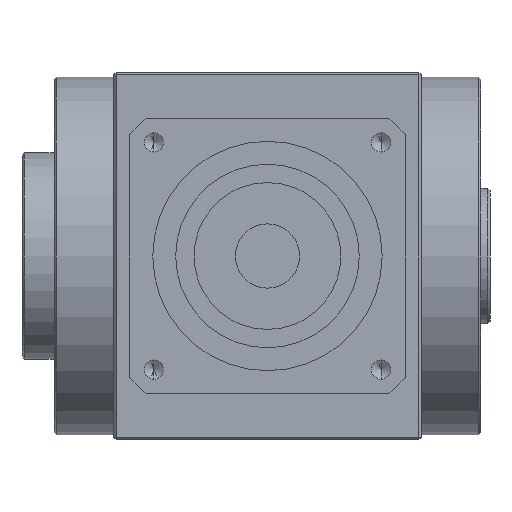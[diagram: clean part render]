
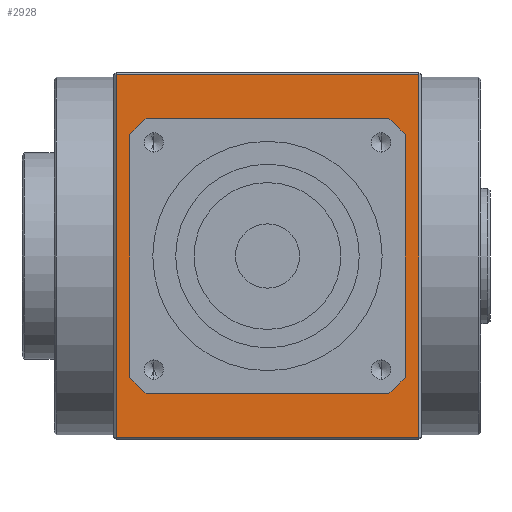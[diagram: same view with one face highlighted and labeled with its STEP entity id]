
A CAD part, front view. The second image highlights one B-rep face of the part: STEP entity #2928.
In plain terms, the highlighted planar face has unit normal (0, -1, 0).
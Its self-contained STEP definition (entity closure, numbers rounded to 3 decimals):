
#40 = DIRECTION ( 'NONE',  ( 0., 0., 1. ) ) ;
#56 = ORIENTED_EDGE ( 'NONE', *, *, #7440, .T. ) ;
#213 = ORIENTED_EDGE ( 'NONE', *, *, #3671, .T. ) ;
#243 = VERTEX_POINT ( 'NONE', #915 ) ;
#366 = EDGE_CURVE ( 'NONE', #1621, #6399, #6842, .T. ) ;
#401 = VECTOR ( 'NONE', #6672, 1000. ) ;
#547 = LINE ( 'NONE', #7593, #3096 ) ;
#701 = CARTESIAN_POINT ( 'NONE',  ( 26.458, -40., 30. ) ) ;
#750 = EDGE_LOOP ( 'NONE', ( #56, #2226, #213, #1925 ) ) ;
#769 = FACE_OUTER_BOUND ( 'NONE', #750, .T. ) ;
#853 = VERTEX_POINT ( 'NONE', #3472 ) ;
#882 = VERTEX_POINT ( 'NONE', #7891 ) ;
#892 = DIRECTION ( 'NONE',  ( 1., 0., 0. ) ) ;
#915 = CARTESIAN_POINT ( 'NONE',  ( -26.458, -40., -30. ) ) ;
#934 = DIRECTION ( 'NONE',  ( 0., 0., -1. ) ) ;
#1023 = DIRECTION ( 'NONE',  ( 0., 0., -1. ) ) ;
#1089 = DIRECTION ( 'NONE',  ( 0., -1., 0. ) ) ;
#1133 = CIRCLE ( 'NONE', #3582, 40. ) ;
#1235 = PLANE ( 'NONE',  #7580 ) ;
#1241 = CARTESIAN_POINT ( 'NONE',  ( -33., -40., -39.5 ) ) ;
#1309 = AXIS2_PLACEMENT_3D ( 'NONE', #2819, #5201, #934 ) ;
#1318 = CARTESIAN_POINT ( 'NONE',  ( 33.5, -40., 40. ) ) ;
#1327 = CARTESIAN_POINT ( 'NONE',  ( 30., -40., 26.458 ) ) ;
#1340 = LINE ( 'NONE', #2528, #1744 ) ;
#1621 = VERTEX_POINT ( 'NONE', #1241 ) ;
#1744 = VECTOR ( 'NONE', #5956, 1000. ) ;
#1821 = ORIENTED_EDGE ( 'NONE', *, *, #6254, .F. ) ;
#1889 = CARTESIAN_POINT ( 'NONE',  ( 33.5, -40., 39.5 ) ) ;
#1925 = ORIENTED_EDGE ( 'NONE', *, *, #3401, .T. ) ;
#1983 = DIRECTION ( 'NONE',  ( 0., -1., 0. ) ) ;
#2226 = ORIENTED_EDGE ( 'NONE', *, *, #366, .T. ) ;
#2267 = DIRECTION ( 'NONE',  ( 0., 0., 1. ) ) ;
#2371 = ORIENTED_EDGE ( 'NONE', *, *, #7333, .F. ) ;
#2528 = CARTESIAN_POINT ( 'NONE',  ( -26.458, -40., 30. ) ) ;
#2603 = ORIENTED_EDGE ( 'NONE', *, *, #4915, .F. ) ;
#2819 = CARTESIAN_POINT ( 'NONE',  ( 0., -40., 0. ) ) ;
#2928 = ADVANCED_FACE ( 'NONE', ( #769, #7605 ), #1235, .F. ) ;
#3028 = VECTOR ( 'NONE', #4992, 1000. ) ;
#3096 = VECTOR ( 'NONE', #892, 1000. ) ;
#3098 = ORIENTED_EDGE ( 'NONE', *, *, #7227, .F. ) ;
#3276 = CARTESIAN_POINT ( 'NONE',  ( -30., -40., 26.458 ) ) ;
#3368 = VECTOR ( 'NONE', #1023, 1000. ) ;
#3401 = EDGE_CURVE ( 'NONE', #4141, #7631, #4153, .T. ) ;
#3472 = CARTESIAN_POINT ( 'NONE',  ( -30., -40., -26.458 ) ) ;
#3486 = VERTEX_POINT ( 'NONE', #6471 ) ;
#3554 = CARTESIAN_POINT ( 'NONE',  ( -30., -40., 26.458 ) ) ;
#3582 = AXIS2_PLACEMENT_3D ( 'NONE', #7164, #1983, #3843 ) ;
#3671 = EDGE_CURVE ( 'NONE', #6399, #4141, #5016, .T. ) ;
#3843 = DIRECTION ( 'NONE',  ( 0., 0., -1. ) ) ;
#4009 = CARTESIAN_POINT ( 'NONE',  ( -33., -40., 39.5 ) ) ;
#4141 = VERTEX_POINT ( 'NONE', #5763 ) ;
#4153 = LINE ( 'NONE', #1889, #4250 ) ;
#4250 = VECTOR ( 'NONE', #6931, 1000. ) ;
#4363 = VERTEX_POINT ( 'NONE', #701 ) ;
#4382 = EDGE_CURVE ( 'NONE', #882, #3486, #5426, .T. ) ;
#4413 = AXIS2_PLACEMENT_3D ( 'NONE', #7246, #1089, #5442 ) ;
#4521 = CARTESIAN_POINT ( 'NONE',  ( -33., -40., 40. ) ) ;
#4531 = VECTOR ( 'NONE', #2267, 1000. ) ;
#4619 = CIRCLE ( 'NONE', #4413, 40. ) ;
#4831 = VERTEX_POINT ( 'NONE', #3276 ) ;
#4855 = CARTESIAN_POINT ( 'NONE',  ( 33.5, -40., -39.5 ) ) ;
#4915 = EDGE_CURVE ( 'NONE', #853, #243, #4619, .T. ) ;
#4992 = DIRECTION ( 'NONE',  ( 0., 0., 1. ) ) ;
#5016 = LINE ( 'NONE', #5328, #4531 ) ;
#5020 = VERTEX_POINT ( 'NONE', #7509 ) ;
#5201 = DIRECTION ( 'NONE',  ( 0., -1., 0. ) ) ;
#5255 = CARTESIAN_POINT ( 'NONE',  ( 0., -40., 0. ) ) ;
#5328 = CARTESIAN_POINT ( 'NONE',  ( 33., -40., 40. ) ) ;
#5426 = CIRCLE ( 'NONE', #1309, 40. ) ;
#5442 = DIRECTION ( 'NONE',  ( 0., 0., -1. ) ) ;
#5763 = CARTESIAN_POINT ( 'NONE',  ( 33., -40., 39.5 ) ) ;
#5875 = DIRECTION ( 'NONE',  ( 0., -1., 0. ) ) ;
#5956 = DIRECTION ( 'NONE',  ( -1., 0., 0. ) ) ;
#6212 = LINE ( 'NONE', #3554, #3368 ) ;
#6253 = AXIS2_PLACEMENT_3D ( 'NONE', #5255, #5875, #8104 ) ;
#6254 = EDGE_CURVE ( 'NONE', #7965, #4831, #7896, .T. ) ;
#6295 = CARTESIAN_POINT ( 'NONE',  ( -26.458, -40., 30. ) ) ;
#6399 = VERTEX_POINT ( 'NONE', #7973 ) ;
#6464 = EDGE_CURVE ( 'NONE', #3486, #5020, #7386, .T. ) ;
#6471 = CARTESIAN_POINT ( 'NONE',  ( 30., -40., -26.458 ) ) ;
#6672 = DIRECTION ( 'NONE',  ( 1., 0., 0. ) ) ;
#6673 = EDGE_LOOP ( 'NONE', ( #2603, #7226, #1821, #6883, #2371, #8008, #6804, #3098 ) ) ;
#6787 = LINE ( 'NONE', #4521, #7177 ) ;
#6804 = ORIENTED_EDGE ( 'NONE', *, *, #4382, .F. ) ;
#6842 = LINE ( 'NONE', #4855, #401 ) ;
#6883 = ORIENTED_EDGE ( 'NONE', *, *, #7926, .F. ) ;
#6931 = DIRECTION ( 'NONE',  ( -1., 0., 0. ) ) ;
#6942 = DIRECTION ( 'NONE',  ( 0., 1., 0. ) ) ;
#7004 = DIRECTION ( 'NONE',  ( 0., 0., -1. ) ) ;
#7164 = CARTESIAN_POINT ( 'NONE',  ( 0., -40., 0. ) ) ;
#7177 = VECTOR ( 'NONE', #7004, 1000. ) ;
#7226 = ORIENTED_EDGE ( 'NONE', *, *, #7651, .F. ) ;
#7227 = EDGE_CURVE ( 'NONE', #243, #882, #547, .T. ) ;
#7246 = CARTESIAN_POINT ( 'NONE',  ( 0., -40., 0. ) ) ;
#7333 = EDGE_CURVE ( 'NONE', #5020, #4363, #1133, .T. ) ;
#7386 = LINE ( 'NONE', #1327, #3028 ) ;
#7440 = EDGE_CURVE ( 'NONE', #7631, #1621, #6787, .T. ) ;
#7509 = CARTESIAN_POINT ( 'NONE',  ( 30., -40., 26.458 ) ) ;
#7580 = AXIS2_PLACEMENT_3D ( 'NONE', #1318, #6942, #40 ) ;
#7593 = CARTESIAN_POINT ( 'NONE',  ( -26.458, -40., -30. ) ) ;
#7605 = FACE_BOUND ( 'NONE', #6673, .T. ) ;
#7631 = VERTEX_POINT ( 'NONE', #4009 ) ;
#7651 = EDGE_CURVE ( 'NONE', #4831, #853, #6212, .T. ) ;
#7891 = CARTESIAN_POINT ( 'NONE',  ( 26.458, -40., -30. ) ) ;
#7896 = CIRCLE ( 'NONE', #6253, 40. ) ;
#7926 = EDGE_CURVE ( 'NONE', #4363, #7965, #1340, .T. ) ;
#7965 = VERTEX_POINT ( 'NONE', #6295 ) ;
#7973 = CARTESIAN_POINT ( 'NONE',  ( 33., -40., -39.5 ) ) ;
#8008 = ORIENTED_EDGE ( 'NONE', *, *, #6464, .F. ) ;
#8104 = DIRECTION ( 'NONE',  ( 0., 0., -1. ) ) ;
